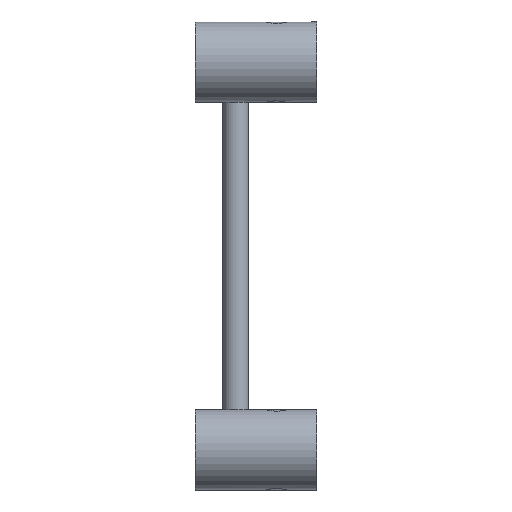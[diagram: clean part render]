
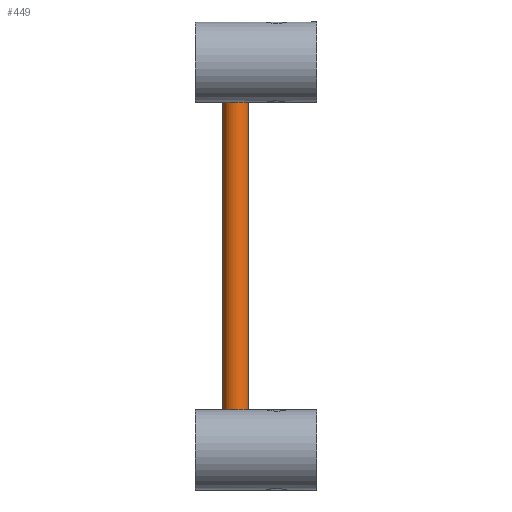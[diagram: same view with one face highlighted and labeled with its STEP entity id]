
A CAD part, front view. The second image highlights one B-rep face of the part: STEP entity #449.
In plain terms, the highlighted cylindrical face has radius 80 mm (diameter 160 mm), a full revolution.
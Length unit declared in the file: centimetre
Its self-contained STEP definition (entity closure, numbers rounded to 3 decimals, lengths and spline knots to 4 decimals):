
#34=FACE_BOUND('',#124,.T.);
#62=CYLINDRICAL_SURFACE('',#498,8.);
#85=FACE_OUTER_BOUND('',#123,.T.);
#123=EDGE_LOOP('',(#330,#331));
#124=EDGE_LOOP('',(#332,#333));
#180=CIRCLE('',#493,8.);
#181=CIRCLE('',#495,8.);
#182=CIRCLE('',#497,8.);
#183=CIRCLE('',#499,8.);
#220=VERTEX_POINT('',#696);
#221=VERTEX_POINT('',#697);
#222=VERTEX_POINT('',#701);
#223=VERTEX_POINT('',#702);
#265=EDGE_CURVE('',#221,#220,#180,.T.);
#267=EDGE_CURVE('',#223,#222,#181,.T.);
#268=EDGE_CURVE('',#222,#223,#182,.T.);
#269=EDGE_CURVE('',#220,#221,#183,.T.);
#330=ORIENTED_EDGE('',*,*,#267,.T.);
#331=ORIENTED_EDGE('',*,*,#268,.T.);
#332=ORIENTED_EDGE('',*,*,#269,.T.);
#333=ORIENTED_EDGE('',*,*,#265,.T.);
#449=ADVANCED_FACE('',(#85,#34),#62,.T.);
#493=AXIS2_PLACEMENT_3D('',#699,#579,#580);
#495=AXIS2_PLACEMENT_3D('',#704,#584,#585);
#497=AXIS2_PLACEMENT_3D('',#706,#588,#589);
#498=AXIS2_PLACEMENT_3D('',#707,#590,#591);
#499=AXIS2_PLACEMENT_3D('',#708,#592,#593);
#579=DIRECTION('center_axis',(0.,0.,
-1.));
#580=DIRECTION('ref_axis',(-0.606,-0.795,0.));
#584=DIRECTION('center_axis',(0.,0.,
1.));
#585=DIRECTION('ref_axis',(-0.606,-0.795,0.));
#588=DIRECTION('center_axis',(0.,0.,
1.));
#589=DIRECTION('ref_axis',(-0.606,-0.795,0.));
#590=DIRECTION('center_axis',(0.,0.,
1.));
#591=DIRECTION('ref_axis',(-0.606,-0.795,0.));
#592=DIRECTION('center_axis',(0.,0.,
-1.));
#593=DIRECTION('ref_axis',(-0.606,-0.795,0.));
#696=CARTESIAN_POINT('',(17.,-339.,-24.75));
#697=CARTESIAN_POINT('',(33.,-339.,-24.75));
#699=CARTESIAN_POINT('Origin',(25.,-339.,-24.75));
#701=CARTESIAN_POINT('',(17.,-339.,-214.25));
#702=CARTESIAN_POINT('',(33.,-339.,-214.25));
#704=CARTESIAN_POINT('Origin',(25.,-339.,-214.25));
#706=CARTESIAN_POINT('Origin',(25.,-339.,-214.25));
#707=CARTESIAN_POINT('Origin',(25.,-339.,-119.5));
#708=CARTESIAN_POINT('Origin',(25.,-339.,-24.75));
